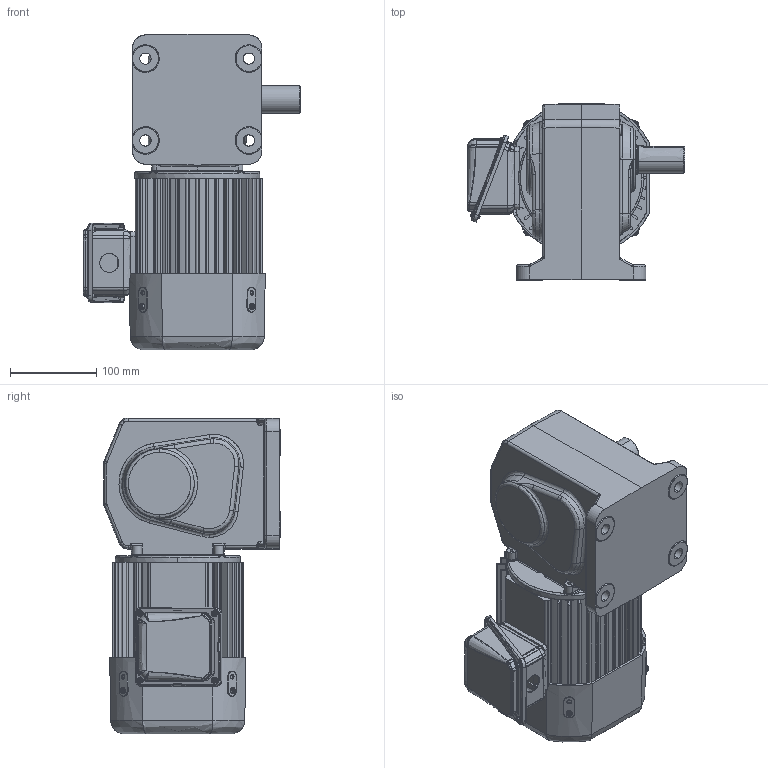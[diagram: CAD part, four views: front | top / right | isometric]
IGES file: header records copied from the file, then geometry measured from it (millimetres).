
Start section: SolidWorks IGES file using analytic representation for surfaces
Global section: file name: \\100.100.100.8\1_共有作業フォルダ\1-5_３Ｄデータ\solidworks\personal-folder\H.Nagayama\HL外形\HL(3D)\igs\TMHL-07-(5~60)B.IGS; native system: SolidWorks 2018; preprocessor: SolidWorks 2018; author: sigma-giken; date: 200326.161612; units: millimetre
Bounding box: 252 x 205 x 366.5 mm (x, y, z)
Surface area: 595440.9 mm2 (no closed solid volume)
Topology: 0 solids, 0 shells, 1798 faces, 21034 edges, 20939 vertices
Faces by surface type: revolution 906, bspline 892
